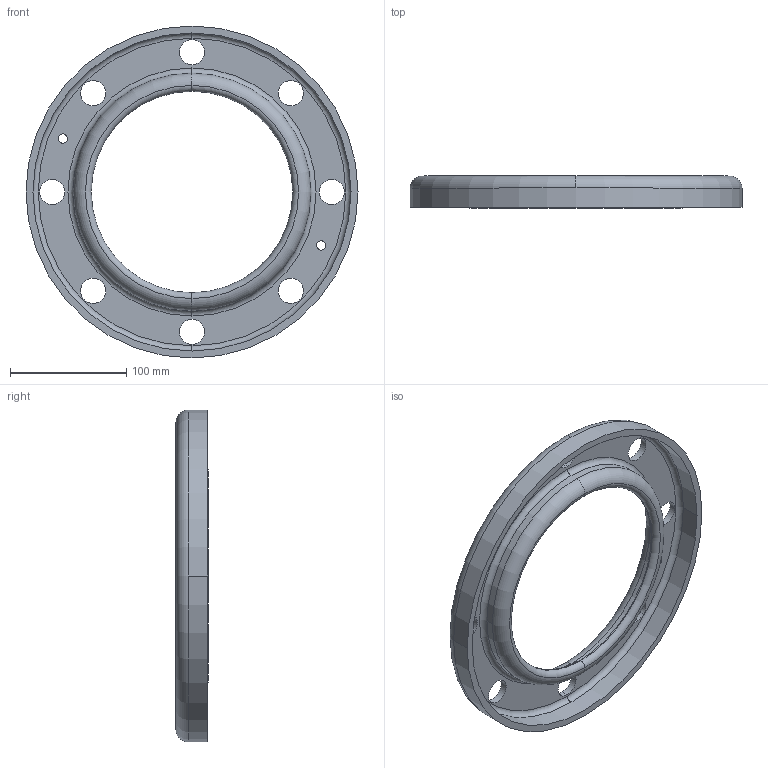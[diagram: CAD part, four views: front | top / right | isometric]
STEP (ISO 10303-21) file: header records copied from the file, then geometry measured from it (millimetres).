
FILE_DESCRIPTION(('STEP AP214'),'1');
FILE_NAME('Losflansch-DN150.stp','2023-07-13T07:24:46',(' '),(' '),'Spatial InterOp 3D',' ',' ');
FILE_SCHEMA(('automotive_design'));
Length unit declared in the file: millimetre
Products named in the file (2): 3D-Arbeitsebene
Assembly tree (1 placements, depth 2):
  3D-Arbeitsebene
    3D-Arbeitsebene
Bounding box: 285 x 27.5 x 285 mm (x, y, z)
Volume: 370261.9 mm3; surface area: 135389 mm2
Topology: 1 solids, 1 shells, 48 faces, 136 edges, 92 vertices
Faces by surface type: cylinder 30, torus 14, plane 4
Entity records: 2117 total; most frequent: DIRECTION 342, CARTESIAN_POINT 278, ORIENTED_EDGE 272, AXIS2_PLACEMENT_3D 156, EDGE_CURVE 136, CIRCLE 106, VERTEX_POINT 92, EDGE_LOOP 72
